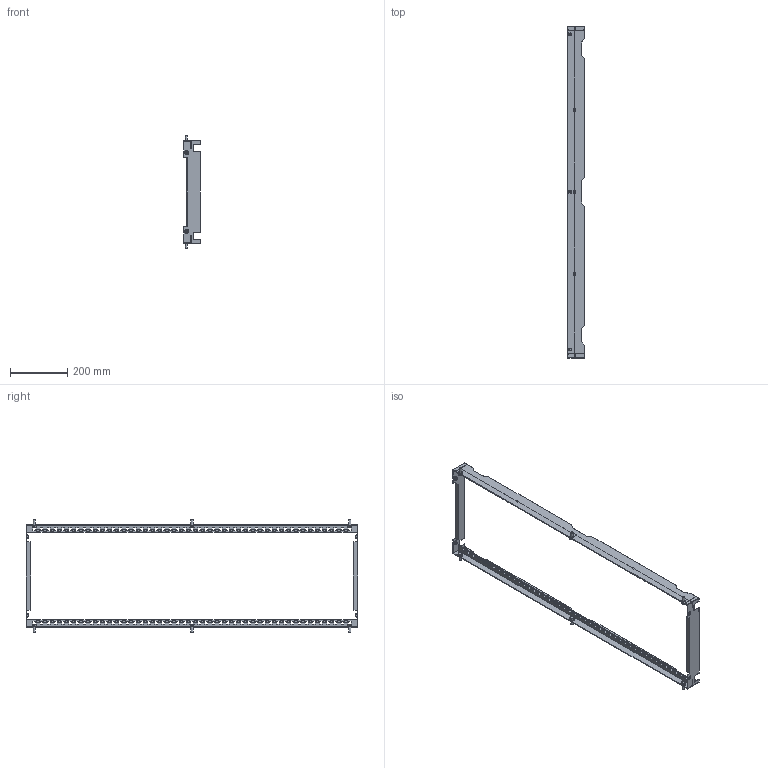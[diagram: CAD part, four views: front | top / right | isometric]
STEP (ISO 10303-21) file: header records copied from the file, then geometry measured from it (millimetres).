
FILE_DESCRIPTION (( 'STEP AP203' ), '1' );
FILE_NAME ('R6IP1240.step', '2025-07-11T08:04:59', ( '' ), ( '' ), 'SwSTEP 2.0', 'SolidWorks 2022', '' );
FILE_SCHEMA (( 'CONFIG_CONTROL_DESIGN' ));
Length unit declared in the file: millimetre
Products named in the file (7): RB.3328.00.00.0; R6IP1240; M8x20 DIN 6921 cl.8,8 Zinc_straight; RB.3320.00.02.0_-01; RB.3320.00.00.0 СБ_-01; RB.3320.00.01.0_-01; M6 DIN 6923 cl.8,0 Zinc_straight
Assembly tree (17 placements, depth 3):
  R6IP1240
    RB.3320.00.00.0 СБ_-01  x2
      RB.3320.00.01.0_-01
      RB.3320.00.02.0_-01
    RB.3328.00.00.0  x2
    M6 DIN 6923 cl.8,0 Zinc_straight  x4
    M8x20 DIN 6921 cl.8,8 Zinc_straight  x7
Bounding box: 57.76 x 1157.6 x 393.2 mm (x, y, z)
Volume: 368377.5 mm3; surface area: 577569.7 mm2
Topology: 17 solids, 17 shells, 3326 faces, 9651 edges, 6354 vertices
Faces by surface type: plane 2347, cylinder 803, cone 92, bspline 66, torus 18
Full cylindrical faces by diameter (mm): 5 x4, 6 x4, 8 x11
Entity records: 47755 total; most frequent: CARTESIAN_POINT 8875, ORIENTED_EDGE 8080, DIRECTION 7574, EDGE_CURVE 4040, LINE 3092, VECTOR 3092, VERTEX_POINT 2676, AXIS2_PLACEMENT_3D 2241
